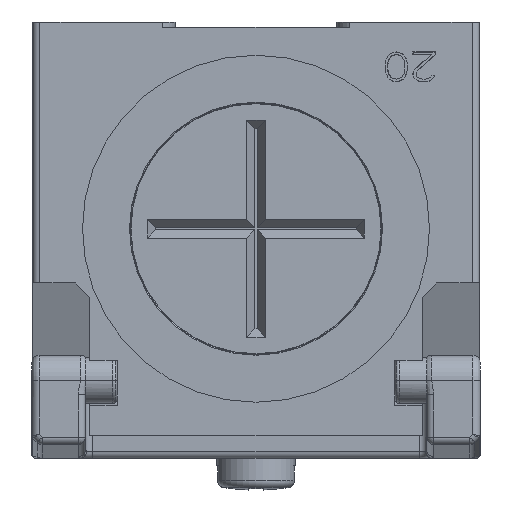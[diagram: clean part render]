
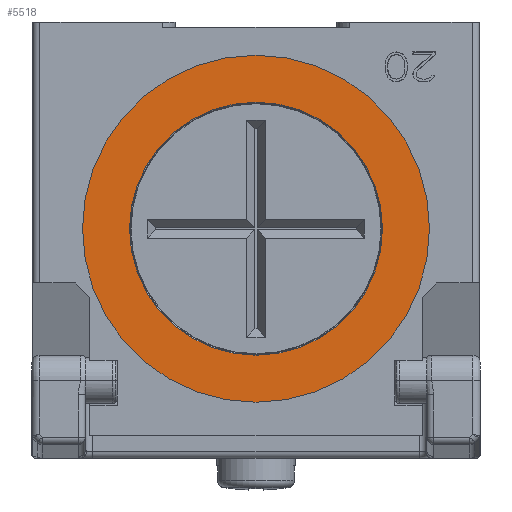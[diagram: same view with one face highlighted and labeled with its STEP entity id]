
A CAD part, front view. The second image highlights one B-rep face of the part: STEP entity #5518.
In plain terms, the highlighted planar face has unit normal (0, -1, 0) as drawn and (-1, 0, 0) by its records, which use the part's own axes.
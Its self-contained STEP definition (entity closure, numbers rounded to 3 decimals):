
#968=FACE_BOUND('',#8594,.T.);
#969=FACE_BOUND('',#8595,.T.);
#5518=ADVANCED_FACE('',(#968,#969),#6760,.F.);
#6760=PLANE('',#23046);
#8594=EDGE_LOOP('',(#9953,#9954));
#8595=EDGE_LOOP('',(#9955,#9956));
#9953=ORIENTED_EDGE('',*,*,#18801,.F.);
#9954=ORIENTED_EDGE('',*,*,#18799,.T.);
#9955=ORIENTED_EDGE('',*,*,#18802,.T.);
#9956=ORIENTED_EDGE('',*,*,#18803,.T.);
#16637=VERTEX_POINT('',#31545);
#16638=VERTEX_POINT('',#31547);
#16639=VERTEX_POINT('',#31553);
#16640=VERTEX_POINT('',#31554);
#18799=EDGE_CURVE('',#16638,#16637,#22145,.T.);
#18801=EDGE_CURVE('',#16638,#16637,#22146,.T.);
#18802=EDGE_CURVE('',#16639,#16640,#22147,.T.);
#18803=EDGE_CURVE('',#16640,#16639,#22148,.T.);
#22145=CIRCLE('',#23040,12.);
#22146=CIRCLE('',#23042,12.);
#22147=CIRCLE('',#23044,8.75);
#22148=CIRCLE('',#23045,8.75);
#23040=AXIS2_PLACEMENT_3D('',#31546,#25181,#25182);
#23042=AXIS2_PLACEMENT_3D('',#31550,#25186,#25187);
#23044=AXIS2_PLACEMENT_3D('',#31552,#25190,#25191);
#23045=AXIS2_PLACEMENT_3D('',#31555,#25192,#25193);
#23046=AXIS2_PLACEMENT_3D('',#31556,#25194,#25195);
#25181=DIRECTION('',(-1.,0.,0.));
#25182=DIRECTION('',(0.,1.,0.));
#25186=DIRECTION('',(1.,0.,0.));
#25187=DIRECTION('',(0.,1.,0.));
#25190=DIRECTION('',(1.,0.,0.));
#25191=DIRECTION('',(0.,-1.,0.));
#25192=DIRECTION('',(1.,0.,0.));
#25193=DIRECTION('',(0.,1.,0.));
#25194=DIRECTION('',(1.,0.,0.));
#25195=DIRECTION('',(0.,-1.,0.));
#31545=CARTESIAN_POINT('',(0.,-12.,0.));
#31546=CARTESIAN_POINT('',(0.,0.,0.));
#31547=CARTESIAN_POINT('',(0.,12.,0.));
#31550=CARTESIAN_POINT('',(0.,0.,0.));
#31552=CARTESIAN_POINT('',(0.,0.,0.));
#31553=CARTESIAN_POINT('',(0.,-8.75,0.));
#31554=CARTESIAN_POINT('',(0.,8.75,0.));
#31555=CARTESIAN_POINT('',(0.,0.,0.));
#31556=CARTESIAN_POINT('',(0.,0.,0.));
